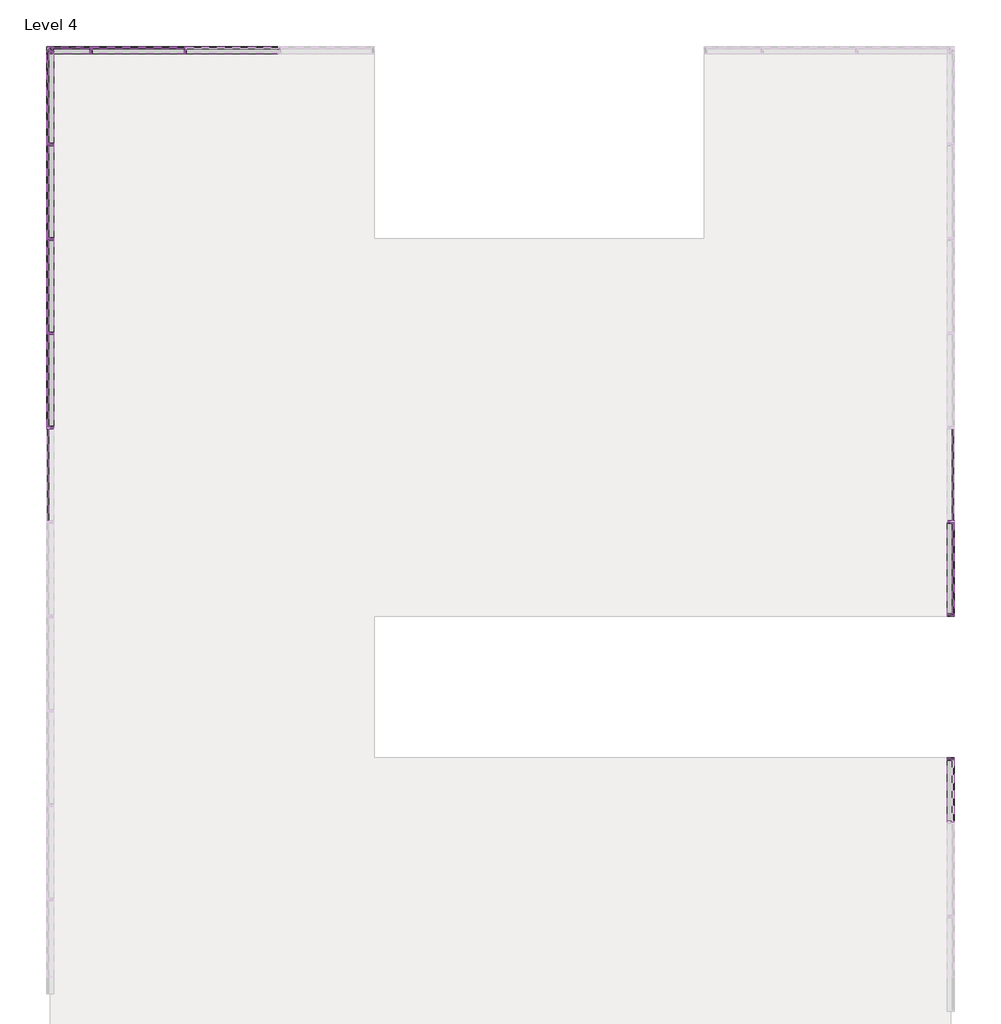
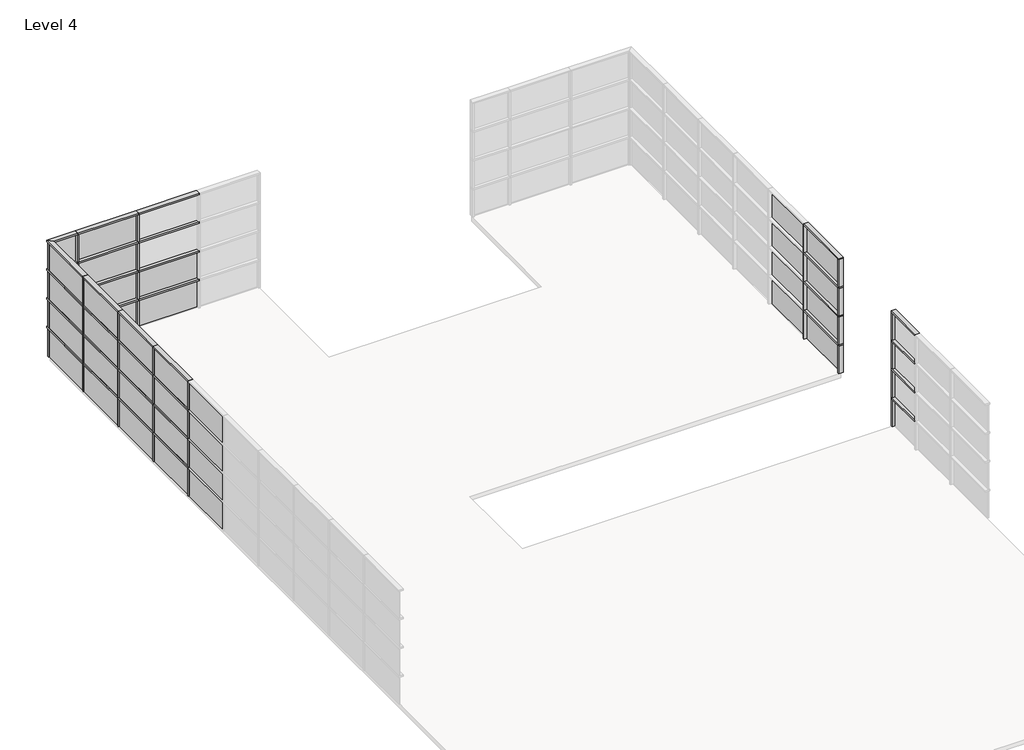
# One storey, part 4 of 5: 80 members, 38 plates.
"""IFC4 building model written with IfcOpenShell, lengths in millimetres."""

import ifcopenshell
import ifcopenshell.guid

model = None  # the IFC model being written
_history = None  # IfcOwnerHistory: only IFC2X3 demands one
_inside = {}  # id of a spatial element -> (the spatial element, [elements in it])
_under = {}  # id of a project, library or spatial element -> (it, [spatial elements below it])
_declared = {}  # id of a project -> (the project, [libraries it declares])
_typed = {}  # id of a type object -> (the type object, [elements of that type])
_made_of = {}  # id of a material, layer set ... -> (it, [elements and type objects made of it])


def new_model(schema):
    """Start an empty IFC model of exactly this schema.

    Asked for "IFC4X3", IfcOpenShell would pick the latest addendum, in which some entities
    have other attributes; the version numbers below select the first issue.
    IFC2X3 requires an IfcOwnerHistory on every rooted entity: one is made here for all.
    """
    global model, _history
    if schema == "IFC4X3":
        model = ifcopenshell.file(schema_version=(4, 3, 0, 0))
    else:
        model = ifcopenshell.file(schema=schema)
    _inside.clear()
    _under.clear()
    _declared.clear()
    _typed.clear()
    _made_of.clear()
    _history = None
    if model.schema == "IFC2X3":
        org = make("IfcOrganization", Name="unknown")
        user = make(
            "IfcPersonAndOrganization",
            ThePerson=make("IfcPerson", FamilyName="unknown"),
            TheOrganization=org,
        )
        app = make(
            "IfcApplication",
            ApplicationDeveloper=org,
            Version="unknown",
            ApplicationFullName="unknown",
            ApplicationIdentifier="unknown",
        )
        _history = make(
            "IfcOwnerHistory",
            OwningUser=user,
            OwningApplication=app,
            ChangeAction="ADDED",
            CreationDate=0,
        )
    return model


def make(cls, **values):
    """One entity of the class cls with the attributes given. An attribute that is None is left unset."""
    return model.create_entity(
        cls, **{name: value for name, value in values.items() if value is not None}
    )


def rooted(cls, **values):
    """An entity with a GlobalId (a new one), such as an element, a storey or a relation."""
    return make(cls, GlobalId=ifcopenshell.guid.new(), OwnerHistory=_history, **values)


def si_unit(unit_type, name, prefix=None):
    """IfcSIUnit, for example si_unit("LENGTHUNIT", "METRE", prefix="MILLI")."""
    return make("IfcSIUnit", UnitType=unit_type, Prefix=prefix, Name=name)


def assignment(units):
    """IfcUnitAssignment: the units of a project."""
    return None if units is None else make("IfcUnitAssignment", Units=units)


def point(xyz):
    """IfcCartesianPoint."""
    return None if xyz is None else make("IfcCartesianPoint", Coordinates=xyz)


def direction(xyz):
    """IfcDirection."""
    return None if xyz is None else make("IfcDirection", DirectionRatios=xyz)


def frame(location, z_axis=None, x_axis=None):
    """IfcAxis2Placement3D, a coordinate frame: its origin and axes. An axis left out is left unset."""
    return make(
        "IfcAxis2Placement3D",
        Location=point(location),
        Axis=direction(z_axis),
        RefDirection=direction(x_axis),
    )


def origin():
    """The frame at (0, 0, 0) with its axes left unset."""
    return frame((0.0, 0.0, 0.0))


def origin_with_axes():
    """The frame at (0, 0, 0) with the z axis (0, 0, 1) and the x axis (1, 0, 0) written out."""
    return frame((0.0, 0.0, 0.0), z_axis=(0.0, 0.0, 1.0), x_axis=(1.0, 0.0, 0.0))


def place(relative_to, where):
    """IfcLocalPlacement: puts the frame where relative to a parent placement (None: the world)."""
    return make(
        "IfcLocalPlacement", PlacementRelTo=relative_to, RelativePlacement=where
    )


def context(
    kind, dimensions, precision=None, world=None, true_north=None, identifier=None
):
    """IfcGeometricRepresentationContext, for example the 3D "Model" context."""
    return make(
        "IfcGeometricRepresentationContext",
        ContextIdentifier=identifier,
        ContextType=kind,
        CoordinateSpaceDimension=dimensions,
        Precision=precision,
        WorldCoordinateSystem=world,
        TrueNorth=true_north,
    )


def project(units=None, contexts=None):
    """IfcProject with its units and contexts."""
    return rooted(
        "IfcProject",
        Name="project",
        RepresentationContexts=contexts,
        UnitsInContext=assignment(units),
    )


def spatial(cls, under=None, at=None, **own):
    """A site, building, storey or space (cls), placed at a placement, below another one or the project."""
    s = rooted(cls, ObjectPlacement=at, **own)
    if under is not None:
        _under.setdefault(under.id(), (under, []))[1].append(s)
    return s


def polyline(points):
    """IfcPolyline through the points."""
    return make("IfcPolyline", Points=[point(p) for p in points])


def outline(outer, holes=None, kind="AREA"):
    """IfcArbitraryClosedProfileDef: a profile drawn as a closed curve; with holes, ...WithVoids."""
    if holes is None:
        return make("IfcArbitraryClosedProfileDef", ProfileType=kind, OuterCurve=outer)
    return make(
        "IfcArbitraryProfileDefWithVoids",
        ProfileType=kind,
        OuterCurve=outer,
        InnerCurves=holes,
    )


def extrude(swept, where, along, depth):
    """IfcExtrudedAreaSolid: the profile swept, set in the frame where, extruded along a direction by depth."""
    return make(
        "IfcExtrudedAreaSolid",
        SweptArea=swept,
        Position=where,
        ExtrudedDirection=direction(along),
        Depth=depth,
    )


def shape(context_of_items, identifier, shape_type, items):
    """IfcShapeRepresentation: the items that make up one representation, for example the "Body"."""
    return make(
        "IfcShapeRepresentation",
        ContextOfItems=context_of_items,
        RepresentationIdentifier=identifier,
        RepresentationType=shape_type,
        Items=items,
    )


def source(mapping_origin, context_of_items, identifier, shape_type, items):
    """IfcRepresentationMap: a shape defined once, which mapped items show again and again."""
    return make(
        "IfcRepresentationMap",
        MappingOrigin=mapping_origin,
        MappedRepresentation=shape(context_of_items, identifier, shape_type, items),
    )


def transform(
    local_origin,
    x_axis=None,
    y_axis=None,
    z_axis=None,
    scale=None,
    scale2=None,
    scale3=None,
    uniform=True,
):
    """IfcCartesianTransformationOperator3D, or its non-uniform kind. x_axis, y_axis, z_axis: its Axis1, 2, 3."""
    if uniform:
        return make(
            "IfcCartesianTransformationOperator3D",
            Axis1=direction(x_axis),
            Axis2=direction(y_axis),
            LocalOrigin=point(local_origin),
            Scale=scale,
            Axis3=direction(z_axis),
        )
    return make(
        "IfcCartesianTransformationOperator3DnonUniform",
        Axis1=direction(x_axis),
        Axis2=direction(y_axis),
        LocalOrigin=point(local_origin),
        Scale=scale,
        Axis3=direction(z_axis),
        Scale2=scale2,
        Scale3=scale3,
    )


def mapped(mapping_source, mapping_target):
    """IfcMappedItem: shows the shape of a source again, moved by a transform."""
    return make(
        "IfcMappedItem", MappingSource=mapping_source, MappingTarget=mapping_target
    )


def made_of(thing, what):
    """Note that an element or type object is made of a material, layer set ...; save() writes the relation."""
    if what is not None:
        _made_of.setdefault(what.id(), (what, []))[1].append(thing)
    return thing


def element(
    cls,
    number,
    at=None,
    inside=None,
    cuts=None,
    type_object=None,
    material=None,
    context=None,
    identifier="Body",
    shape_type=None,
    held_by="IfcProductDefinitionShape",
    body=None,
    shapes=None,
    **own,
):
    """One element of the class cls, such as IfcWall. Its Tag is "e" and its number.

    at: its placement. inside: the storey or other place that contains it. cuts: it is an
    opening in that element (IfcRelVoidsElement). A single representation is given by context,
    identifier, shape_type and body (its items); several are given by shapes. held_by: the class
    of the entity that holds the representations. save() writes the other relations.
    """
    e = rooted(cls, Tag="e%d" % number, ObjectPlacement=at, **own)
    if body is not None:
        shapes = [shape(context, identifier, shape_type, body)]
    if shapes is not None:
        e.Representation = make(held_by, Representations=shapes)
    if inside is not None:
        _inside.setdefault(inside.id(), (inside, []))[1].append(e)
    if cuts is not None:
        rooted(
            "IfcRelVoidsElement", RelatingBuildingElement=cuts, RelatedOpeningElement=e
        )
    if type_object is not None:
        _typed.setdefault(type_object.id(), (type_object, []))[1].append(e)
    return made_of(e, material)


def aggregate(whole, parts):
    """IfcRelAggregates: a whole, such as a stair, and the parts it consists of."""
    return rooted("IfcRelAggregates", RelatingObject=whole, RelatedObjects=parts)


def save(model, path):
    """Write the relations noted so far, then the file.

    IfcRelAggregates (storeys below a building ...), IfcRelContainedInSpatialStructure (elements
    in a storey), IfcRelDefinesByType, IfcRelAssociatesMaterial and IfcRelDeclares: one each for
    every whole, place, type object, material and project.
    """
    for whole, parts in _under.values():
        aggregate(whole, parts)
    for where, things in _inside.values():
        rooted(
            "IfcRelContainedInSpatialStructure",
            RelatedElements=things,
            RelatingStructure=where,
        )
    for kind, things in _typed.values():
        rooted("IfcRelDefinesByType", RelatedObjects=things, RelatingType=kind)
    for what, things in _made_of.values():
        rooted("IfcRelAssociatesMaterial", RelatedObjects=things, RelatingMaterial=what)
    for by, libraries in _declared.values():
        rooted("IfcRelDeclares", RelatingContext=by, RelatedDefinitions=libraries)
    model.write(path)


def rectangular_mullion_50_x_150mm_a053b0ca(model_context):
    return source(origin(), model_context, "Body", "SweptSolid", [
        extrude(outline(polyline([(25.0, 75.0), (25.0, -75.0), (-25.0, -75.0), (-25.0, 75.0), (25.0, 75.0)])), frame((0.0, 0.0, -950.0), z_axis=(0.0, 0.0, 1.0), x_axis=(1.0, 0.0, 0.0)), (0.0, 0.0, 1.0), 950.0),
    ])


def rectangular_mullion_50_x_150mm_3a148f0f(model_context):
    return source(origin(), model_context, "Body", "SweptSolid", [
        extrude(outline(polyline([(25.0, 75.0), (25.0, -75.0), (-25.0, -75.0), (-25.0, 75.0), (25.0, 75.0)])), frame((0.0, 0.0, -2000.0), z_axis=(0.0, 0.0, 1.0), x_axis=(1.0, 0.0, 0.0)), (0.0, 0.0, 1.0), 2000.0),
    ])


def rectangular_mullion_50_x_150mm_12a430f9(model_context):
    return source(origin(), model_context, "Body", "SweptSolid", [
        extrude(outline(polyline([(0.0, 75.0), (0.0, -75.0), (-50.0, -75.0), (-50.0, 75.0), (0.0, 75.0)])), frame((0.0, 0.0, -950.0), z_axis=(0.0, 0.0, 1.0), x_axis=(1.0, 0.0, 0.0)), (0.0, 0.0, 1.0), 950.0),
    ])


def rectangular_mullion_50_x_150mm_c4a1d10e(model_context):
    return source(origin(), model_context, "Body", "SweptSolid", [
        extrude(outline(polyline([(-75.0, -75.0), (75.0, 75.0), (75.0, -865.592625), (-75.0, -865.592625), (-75.0, -75.0)])), frame((-25.0, 0.0, 0.0), z_axis=(1.0, 0.0, 0.0), x_axis=(0.0, 1.0, 0.0)), (0.0, 0.0, 1.0), 50.0),
    ])


def rectangular_mullion_50_x_150mm_947845bb(model_context):
    return source(origin(), model_context, "Body", "SweptSolid", [
        extrude(outline(polyline([(-75.0, 0.0), (75.0, 0.0), (75.0, -2075.0), (-75.0, -1925.0), (-75.0, 0.0)])), frame((-25.0, 0.0, 0.0), z_axis=(1.0, 0.0, 0.0), x_axis=(0.0, 1.0, 0.0)), (0.0, 0.0, 1.0), 50.0),
    ])


def rectangular_mullion_50_x_150mm_5fc4eb71(model_context):
    return source(origin(), model_context, "Body", "SweptSolid", [
        extrude(outline(polyline([(25.0, 75.0), (25.0, -75.0), (-25.0, -75.0), (-25.0, 75.0), (25.0, 75.0)])), frame((0.0, 0.0, -1364.7256931), z_axis=(0.0, 0.0, 1.0), x_axis=(1.0, 0.0, 0.0)), (0.0, 0.0, 1.0), 1364.7256931),
    ])


def system_panel_glazed_751a585c(model_context):
    return source(origin(), model_context, "Body", "SweptSolid", [
        extrude(outline(polyline([(475.0, 24.5), (-475.0, 24.5), (-475.0, 49.5), (475.0, 49.5), (475.0, 24.5)])), origin_with_axes(), (0.0, 0.0, 1.0), 1925.0),
    ])


def system_panel_glazed_08de6f5f(model_context):
    return source(origin(), model_context, "Body", "SweptSolid", [
        extrude(outline(polyline([(475.0, 24.5), (-475.0, 24.5), (-475.0, 49.5), (475.0, 49.5), (475.0, 24.5)])), origin_with_axes(), (0.0, 0.0, 1.0), 1950.0),
    ])


def system_panel_glazed_3868a10e(model_context):
    return source(origin(), model_context, "Body", "SweptSolid", [
        extrude(outline(polyline([(475.0, 24.5), (-475.0, 24.5), (-475.0, 49.5), (475.0, 49.5), (475.0, 24.5)])), origin_with_axes(), (0.0, 0.0, 1.0), 790.592625),
    ])


model = new_model("IFC4")

# Units and contexts
model_context = context("Model", 3, world=origin())
ifc_project = project(units=[si_unit("LENGTHUNIT", "METRE", prefix="MILLI")], contexts=[model_context])

# Site, building, storey
site = spatial("IfcSite", under=ifc_project)
building = spatial("IfcBuilding", under=site)
storey = spatial("IfcBuildingStorey", under=building, Name="Level 4", Elevation=12000.0)

# Members
placement = place(None, origin())
rectangular_mullion_50_x_150mm_shape = rectangular_mullion_50_x_150mm_a053b0ca(model_context)
element("IfcMember", 1, ObjectType="Rectangular Mullion : 50 x 150mm", at=placement, inside=storey, context=model_context, shape_type="MappedRepresentation", body=[
    mapped(rectangular_mullion_50_x_150mm_shape, transform((-5587.173406, 6375.9839566, 12025.0), x_axis=(0.0, -1.0, 0.0), y_axis=(-1.0, 0.0, 0.0), z_axis=(0.0, 0.0, -1.0))),
])
element("IfcMember", 2, ObjectType="Rectangular Mullion : 50 x 150mm", at=placement, inside=storey, context=model_context, shape_type="MappedRepresentation", body=[
    mapped(rectangular_mullion_50_x_150mm_shape, transform((-5587.173406, 6375.9839566, 13025.0), x_axis=(0.0, -1.0, 0.0), y_axis=(-1.0, 0.0, 0.0), z_axis=(0.0, 0.0, -1.0))),
])
element("IfcMember", 3, ObjectType="Rectangular Mullion : 50 x 150mm", at=placement, inside=storey, context=model_context, shape_type="MappedRepresentation", body=[
    mapped(rectangular_mullion_50_x_150mm_shape, transform((-5587.173406, 6375.9839566, 14025.0), x_axis=(0.0, -1.0, 0.0), y_axis=(-1.0, 0.0, 0.0), z_axis=(0.0, 0.0, -1.0))),
])
element("IfcMember", 4, ObjectType="Rectangular Mullion : 50 x 150mm", at=placement, inside=storey, context=model_context, shape_type="MappedRepresentation", body=[
    mapped(rectangular_mullion_50_x_150mm_shape, transform((-5587.173406, 6375.9839566, 15025.0), x_axis=(0.0, -1.0, 0.0), y_axis=(-1.0, 0.0, 0.0), z_axis=(0.0, 0.0, -1.0))),
])
element("IfcMember", 5, ObjectType="Rectangular Mullion : 50 x 150mm", at=placement, inside=storey, context=model_context, shape_type="MappedRepresentation", body=[
    mapped(rectangular_mullion_50_x_150mm_shape, transform((-5587.173406, 4375.9839566, 12025.0), x_axis=(0.0, -1.0, 0.0), y_axis=(-1.0, 0.0, 0.0), z_axis=(0.0, 0.0, -1.0))),
])
element("IfcMember", 6, ObjectType="Rectangular Mullion : 50 x 150mm", at=placement, inside=storey, context=model_context, shape_type="MappedRepresentation", body=[
    mapped(rectangular_mullion_50_x_150mm_shape, transform((-5587.173406, 4375.9839566, 13025.0), x_axis=(0.0, -1.0, 0.0), y_axis=(-1.0, 0.0, 0.0), z_axis=(0.0, 0.0, -1.0))),
])
element("IfcMember", 7, ObjectType="Rectangular Mullion : 50 x 150mm", at=placement, inside=storey, context=model_context, shape_type="MappedRepresentation", body=[
    mapped(rectangular_mullion_50_x_150mm_shape, transform((-5587.173406, 4375.9839566, 14025.0), x_axis=(0.0, -1.0, 0.0), y_axis=(-1.0, 0.0, 0.0), z_axis=(0.0, 0.0, -1.0))),
])
element("IfcMember", 8, ObjectType="Rectangular Mullion : 50 x 150mm", at=placement, inside=storey, context=model_context, shape_type="MappedRepresentation", body=[
    mapped(rectangular_mullion_50_x_150mm_shape, transform((-5587.173406, 4375.9839566, 15025.0), x_axis=(0.0, -1.0, 0.0), y_axis=(-1.0, 0.0, 0.0), z_axis=(0.0, 0.0, -1.0))),
])
element("IfcMember", 9, ObjectType="Rectangular Mullion : 50 x 150mm", at=placement, inside=storey, context=model_context, shape_type="MappedRepresentation", body=[
    mapped(rectangular_mullion_50_x_150mm_shape, transform((-5587.173406, 2375.9839566, 12025.0), x_axis=(0.0, -1.0, 0.0), y_axis=(-1.0, 0.0, 0.0), z_axis=(0.0, 0.0, -1.0))),
])
element("IfcMember", 10, ObjectType="Rectangular Mullion : 50 x 150mm", at=placement, inside=storey, context=model_context, shape_type="MappedRepresentation", body=[
    mapped(rectangular_mullion_50_x_150mm_shape, transform((-5587.173406, 2375.9839566, 13025.0), x_axis=(0.0, -1.0, 0.0), y_axis=(-1.0, 0.0, 0.0), z_axis=(0.0, 0.0, -1.0))),
])
element("IfcMember", 11, ObjectType="Rectangular Mullion : 50 x 150mm", at=placement, inside=storey, context=model_context, shape_type="MappedRepresentation", body=[
    mapped(rectangular_mullion_50_x_150mm_shape, transform((-5587.173406, 2375.9839566, 14025.0), x_axis=(0.0, -1.0, 0.0), y_axis=(-1.0, 0.0, 0.0), z_axis=(0.0, 0.0, -1.0))),
])
element("IfcMember", 12, ObjectType="Rectangular Mullion : 50 x 150mm", at=placement, inside=storey, context=model_context, shape_type="MappedRepresentation", body=[
    mapped(rectangular_mullion_50_x_150mm_shape, transform((-5587.173406, 2375.9839566, 15025.0), x_axis=(0.0, -1.0, 0.0), y_axis=(-1.0, 0.0, 0.0), z_axis=(0.0, 0.0, -1.0))),
])
element("IfcMember", 13, ObjectType="Rectangular Mullion : 50 x 150mm", at=placement, inside=storey, context=model_context, shape_type="MappedRepresentation", body=[
    mapped(rectangular_mullion_50_x_150mm_shape, transform((-5587.173406, 375.9839566, 12025.0), x_axis=(0.0, -1.0, 0.0), y_axis=(-1.0, 0.0, 0.0), z_axis=(0.0, 0.0, -1.0))),
])
element("IfcMember", 14, ObjectType="Rectangular Mullion : 50 x 150mm", at=placement, inside=storey, context=model_context, shape_type="MappedRepresentation", body=[
    mapped(rectangular_mullion_50_x_150mm_shape, transform((-5587.173406, 375.9839566, 13025.0), x_axis=(0.0, -1.0, 0.0), y_axis=(-1.0, 0.0, 0.0), z_axis=(0.0, 0.0, -1.0))),
])
element("IfcMember", 15, ObjectType="Rectangular Mullion : 50 x 150mm", at=placement, inside=storey, context=model_context, shape_type="MappedRepresentation", body=[
    mapped(rectangular_mullion_50_x_150mm_shape, transform((-5587.173406, 375.9839566, 14025.0), x_axis=(0.0, -1.0, 0.0), y_axis=(-1.0, 0.0, 0.0), z_axis=(0.0, 0.0, -1.0))),
])
element("IfcMember", 16, ObjectType="Rectangular Mullion : 50 x 150mm", at=placement, inside=storey, context=model_context, shape_type="MappedRepresentation", body=[
    mapped(rectangular_mullion_50_x_150mm_shape, transform((-5587.173406, 375.9839566, 15025.0), x_axis=(0.0, -1.0, 0.0), y_axis=(-1.0, 0.0, 0.0), z_axis=(0.0, 0.0, -1.0))),
])
element("IfcMember", 17, ObjectType="Rectangular Mullion : 50 x 150mm", at=placement, inside=storey, context=model_context, shape_type="MappedRepresentation", body=[
    mapped(rectangular_mullion_50_x_150mm_shape, transform((-4721.580781, 8375.9839566, 12025.0), x_axis=(-1.0, 0.0, 0.0), y_axis=(0.0, 1.0, 0.0), z_axis=(0.0, 0.0, -1.0))),
])
element("IfcMember", 18, ObjectType="Rectangular Mullion : 50 x 150mm", at=placement, inside=storey, context=model_context, shape_type="MappedRepresentation", body=[
    mapped(rectangular_mullion_50_x_150mm_shape, transform((-4721.580781, 8375.9839566, 13025.0), x_axis=(-1.0, 0.0, 0.0), y_axis=(0.0, 1.0, 0.0), z_axis=(0.0, 0.0, -0.9999999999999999))),
])
element("IfcMember", 19, ObjectType="Rectangular Mullion : 50 x 150mm", at=placement, inside=storey, context=model_context, shape_type="MappedRepresentation", body=[
    mapped(rectangular_mullion_50_x_150mm_shape, transform((-4721.580781, 8375.9839566, 14025.0), x_axis=(-1.0, 0.0, 0.0), y_axis=(0.0, 1.0, 0.0), z_axis=(0.0, 0.0, -1.0))),
])
element("IfcMember", 20, ObjectType="Rectangular Mullion : 50 x 150mm", at=placement, inside=storey, context=model_context, shape_type="MappedRepresentation", body=[
    mapped(rectangular_mullion_50_x_150mm_shape, transform((-4721.580781, 8375.9839566, 15025.0), x_axis=(-1.0, 0.0, 0.0), y_axis=(0.0, 1.0, 0.0), z_axis=(0.0, 0.0, -1.0))),
])
element("IfcMember", 21, ObjectType="Rectangular Mullion : 50 x 150mm", at=placement, inside=storey, context=model_context, shape_type="MappedRepresentation", body=[
    mapped(rectangular_mullion_50_x_150mm_shape, transform((-2721.580781, 8375.9839566, 12025.0), x_axis=(-1.0, 0.0, 0.0), y_axis=(0.0, 1.0, 0.0), z_axis=(0.0, 0.0, -1.0))),
])
element("IfcMember", 22, ObjectType="Rectangular Mullion : 50 x 150mm", at=placement, inside=storey, context=model_context, shape_type="MappedRepresentation", body=[
    mapped(rectangular_mullion_50_x_150mm_shape, transform((-2721.580781, 8375.9839566, 13025.0), x_axis=(-1.0, 0.0, 0.0), y_axis=(0.0, 1.0, 0.0), z_axis=(0.0, 0.0, -1.0))),
])
element("IfcMember", 23, ObjectType="Rectangular Mullion : 50 x 150mm", at=placement, inside=storey, context=model_context, shape_type="MappedRepresentation", body=[
    mapped(rectangular_mullion_50_x_150mm_shape, transform((-2721.580781, 8375.9839566, 14025.0), x_axis=(-1.0, 0.0, 0.0), y_axis=(0.0, 1.0, 0.0), z_axis=(0.0, 0.0, -1.0))),
])
element("IfcMember", 24, ObjectType="Rectangular Mullion : 50 x 150mm", at=placement, inside=storey, context=model_context, shape_type="MappedRepresentation", body=[
    mapped(rectangular_mullion_50_x_150mm_shape, transform((-2721.580781, 8375.9839566, 15025.0), x_axis=(-1.0, 0.0, 0.0), y_axis=(0.0, 1.0, 0.0), z_axis=(0.0, 0.0, -1.0))),
])
element("IfcMember", 25, ObjectType="Rectangular Mullion : 50 x 150mm", at=placement, inside=storey, context=model_context, shape_type="MappedRepresentation", body=[
    mapped(rectangular_mullion_50_x_150mm_shape, transform((13503.2660975, -1624.0160434, 12025.0), x_axis=(0.0, 1.0, 0.0), y_axis=(1.0, 0.0, 0.0), z_axis=(0.0, 0.0, -1.0))),
])
element("IfcMember", 26, ObjectType="Rectangular Mullion : 50 x 150mm", at=placement, inside=storey, context=model_context, shape_type="MappedRepresentation", body=[
    mapped(rectangular_mullion_50_x_150mm_shape, transform((13503.2660975, -1624.0160434, 13025.0), x_axis=(0.0, 1.0, 0.0), y_axis=(1.0, 0.0, 0.0), z_axis=(0.0, 0.0, -1.0))),
])
element("IfcMember", 27, ObjectType="Rectangular Mullion : 50 x 150mm", at=placement, inside=storey, context=model_context, shape_type="MappedRepresentation", body=[
    mapped(rectangular_mullion_50_x_150mm_shape, transform((13503.2660975, -1624.0160434, 14025.0), x_axis=(0.0, 1.0, 0.0), y_axis=(1.0, 0.0, 0.0), z_axis=(0.0, 0.0, -1.0))),
])
element("IfcMember", 28, ObjectType="Rectangular Mullion : 50 x 150mm", at=placement, inside=storey, context=model_context, shape_type="MappedRepresentation", body=[
    mapped(rectangular_mullion_50_x_150mm_shape, transform((13503.2660975, -1624.0160434, 15025.0), x_axis=(0.0, 1.0, 0.0), y_axis=(1.0, 0.0, 0.0), z_axis=(0.0, 0.0, -1.0))),
])
rectangular_mullion_50_x_150mm_2_shape = rectangular_mullion_50_x_150mm_3a148f0f(model_context)
element("IfcMember", 29, ObjectType="Rectangular Mullion : 50 x 150mm", at=placement, inside=storey, context=model_context, shape_type="MappedRepresentation", body=[
    mapped(rectangular_mullion_50_x_150mm_2_shape, transform((13503.2660975, -1624.0160434, 13000.0), x_axis=(0.0, 0.0, 1.0), y_axis=(1.0, 0.0, 0.0), z_axis=(0.0, 1.0, 0.0))),
])
element("IfcMember", 30, ObjectType="Rectangular Mullion : 50 x 150mm", at=placement, inside=storey, context=model_context, shape_type="MappedRepresentation", body=[
    mapped(rectangular_mullion_50_x_150mm_2_shape, transform((13503.2660975, -1624.0160434, 14000.0), x_axis=(0.0, 0.0, 1.0), y_axis=(1.0, 0.0, 0.0), z_axis=(0.0, 1.0, 0.0))),
])
element("IfcMember", 31, ObjectType="Rectangular Mullion : 50 x 150mm", at=placement, inside=storey, context=model_context, shape_type="MappedRepresentation", body=[
    mapped(rectangular_mullion_50_x_150mm_2_shape, transform((13503.2660975, -1624.0160434, 15000.0), x_axis=(0.0, 0.0, 1.0), y_axis=(1.0, 0.0, 0.0), z_axis=(0.0, 1.0, 0.0))),
])
element("IfcMember", 32, ObjectType="Rectangular Mullion : 50 x 150mm", at=placement, inside=storey, context=model_context, shape_type="MappedRepresentation", body=[
    mapped(rectangular_mullion_50_x_150mm_2_shape, transform((13503.2660975, -1624.0160434, 16000.0), x_axis=(0.0, 0.0, 1.0), y_axis=(1.0, 0.0, 0.0), z_axis=(0.0, 0.9999999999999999, 0.0))),
])
element("IfcMember", 33, ObjectType="Rectangular Mullion : 50 x 150mm", at=placement, inside=storey, context=model_context, shape_type="MappedRepresentation", body=[
    mapped(rectangular_mullion_50_x_150mm_2_shape, transform((-5587.173406, 4375.9839566, 13000.0), x_axis=(0.0, 0.0, 1.0), y_axis=(-1.0, 0.0, 0.0), z_axis=(0.0, -1.0, 0.0))),
])
element("IfcMember", 34, ObjectType="Rectangular Mullion : 50 x 150mm", at=placement, inside=storey, context=model_context, shape_type="MappedRepresentation", body=[
    mapped(rectangular_mullion_50_x_150mm_2_shape, transform((-5587.173406, 2375.9839566, 13000.0), x_axis=(0.0, 0.0, 1.0), y_axis=(-1.0, 0.0, 0.0), z_axis=(0.0, -1.0, 0.0))),
])
element("IfcMember", 35, ObjectType="Rectangular Mullion : 50 x 150mm", at=placement, inside=storey, context=model_context, shape_type="MappedRepresentation", body=[
    mapped(rectangular_mullion_50_x_150mm_2_shape, transform((-5587.173406, 375.9839566, 13000.0), x_axis=(0.0, 0.0, 1.0), y_axis=(-1.0, 0.0, 0.0), z_axis=(0.0, -1.0, 0.0))),
])
element("IfcMember", 36, ObjectType="Rectangular Mullion : 50 x 150mm", at=placement, inside=storey, context=model_context, shape_type="MappedRepresentation", body=[
    mapped(rectangular_mullion_50_x_150mm_2_shape, transform((-5587.173406, 4375.9839566, 14000.0), x_axis=(0.0, 0.0, 1.0), y_axis=(-1.0, 0.0, 0.0), z_axis=(0.0, -1.0, 0.0))),
])
element("IfcMember", 37, ObjectType="Rectangular Mullion : 50 x 150mm", at=placement, inside=storey, context=model_context, shape_type="MappedRepresentation", body=[
    mapped(rectangular_mullion_50_x_150mm_2_shape, transform((-5587.173406, 2375.9839566, 14000.0), x_axis=(0.0, 0.0, 1.0), y_axis=(-1.0, 0.0, 0.0), z_axis=(0.0, -1.0, 0.0))),
])
element("IfcMember", 38, ObjectType="Rectangular Mullion : 50 x 150mm", at=placement, inside=storey, context=model_context, shape_type="MappedRepresentation", body=[
    mapped(rectangular_mullion_50_x_150mm_2_shape, transform((-5587.173406, 375.9839566, 14000.0), x_axis=(0.0, 0.0, 1.0), y_axis=(-1.0, 0.0, 0.0), z_axis=(0.0, -1.0, 0.0))),
])
element("IfcMember", 39, ObjectType="Rectangular Mullion : 50 x 150mm", at=placement, inside=storey, context=model_context, shape_type="MappedRepresentation", body=[
    mapped(rectangular_mullion_50_x_150mm_2_shape, transform((-5587.173406, 4375.9839566, 15000.0), x_axis=(0.0, 0.0, 1.0), y_axis=(-1.0, 0.0, 0.0), z_axis=(0.0, -1.0, 0.0))),
])
element("IfcMember", 40, ObjectType="Rectangular Mullion : 50 x 150mm", at=placement, inside=storey, context=model_context, shape_type="MappedRepresentation", body=[
    mapped(rectangular_mullion_50_x_150mm_2_shape, transform((-5587.173406, 2375.9839566, 15000.0), x_axis=(0.0, 0.0, 1.0), y_axis=(-1.0, 0.0, 0.0), z_axis=(0.0, -1.0, 0.0))),
])
element("IfcMember", 41, ObjectType="Rectangular Mullion : 50 x 150mm", at=placement, inside=storey, context=model_context, shape_type="MappedRepresentation", body=[
    mapped(rectangular_mullion_50_x_150mm_2_shape, transform((-5587.173406, 375.9839566, 15000.0), x_axis=(0.0, 0.0, 1.0), y_axis=(-1.0, 0.0, 0.0), z_axis=(0.0, -1.0, 0.0))),
])
element("IfcMember", 42, ObjectType="Rectangular Mullion : 50 x 150mm", at=placement, inside=storey, context=model_context, shape_type="MappedRepresentation", body=[
    mapped(rectangular_mullion_50_x_150mm_2_shape, transform((-5587.173406, 4375.9839566, 16000.0), x_axis=(0.0, 0.0, 1.0), y_axis=(-1.0, 0.0, 0.0), z_axis=(0.0, -1.0, 0.0))),
])
element("IfcMember", 43, ObjectType="Rectangular Mullion : 50 x 150mm", at=placement, inside=storey, context=model_context, shape_type="MappedRepresentation", body=[
    mapped(rectangular_mullion_50_x_150mm_2_shape, transform((-5587.173406, 2375.9839566, 16000.0), x_axis=(0.0, 0.0, 1.0), y_axis=(-1.0, 0.0, 0.0), z_axis=(0.0, -1.0, 0.0))),
])
element("IfcMember", 44, ObjectType="Rectangular Mullion : 50 x 150mm", at=placement, inside=storey, context=model_context, shape_type="MappedRepresentation", body=[
    mapped(rectangular_mullion_50_x_150mm_2_shape, transform((-5587.173406, 375.9839566, 16000.0), x_axis=(0.0, 0.0, 1.0), y_axis=(-1.0, 0.0, 0.0), z_axis=(0.0, -1.0, 0.0))),
])
element("IfcMember", 45, ObjectType="Rectangular Mullion : 50 x 150mm", at=placement, inside=storey, context=model_context, shape_type="MappedRepresentation", body=[
    mapped(rectangular_mullion_50_x_150mm_2_shape, transform((-2721.580781, 8375.9839566, 13000.0), x_axis=(0.0, 0.0, 1.0), y_axis=(0.0, 1.0, 0.0), z_axis=(-1.0, 0.0, 0.0))),
])
element("IfcMember", 46, ObjectType="Rectangular Mullion : 50 x 150mm", at=placement, inside=storey, context=model_context, shape_type="MappedRepresentation", body=[
    mapped(rectangular_mullion_50_x_150mm_2_shape, transform((-4721.580781, 8375.9839566, 13000.0), x_axis=(0.0, 0.0, 1.0), y_axis=(0.0, 1.0, 0.0), z_axis=(-1.0, 0.0, 0.0))),
])
element("IfcMember", 47, ObjectType="Rectangular Mullion : 50 x 150mm", at=placement, inside=storey, context=model_context, shape_type="MappedRepresentation", body=[
    mapped(rectangular_mullion_50_x_150mm_2_shape, transform((-2721.580781, 8375.9839566, 14000.0), x_axis=(0.0, 0.0, 1.0), y_axis=(0.0, 1.0, 0.0), z_axis=(-1.0, 0.0, 0.0))),
])
element("IfcMember", 48, ObjectType="Rectangular Mullion : 50 x 150mm", at=placement, inside=storey, context=model_context, shape_type="MappedRepresentation", body=[
    mapped(rectangular_mullion_50_x_150mm_2_shape, transform((-4721.580781, 8375.9839566, 14000.0), x_axis=(0.0, 0.0, 1.0), y_axis=(0.0, 1.0, 0.0), z_axis=(-1.0, 0.0, 0.0))),
])
element("IfcMember", 49, ObjectType="Rectangular Mullion : 50 x 150mm", at=placement, inside=storey, context=model_context, shape_type="MappedRepresentation", body=[
    mapped(rectangular_mullion_50_x_150mm_2_shape, transform((-2721.580781, 8375.9839566, 15000.0), x_axis=(0.0, 0.0, 1.0), y_axis=(0.0, 1.0, 0.0), z_axis=(-1.0, 0.0, 0.0))),
])
element("IfcMember", 50, ObjectType="Rectangular Mullion : 50 x 150mm", at=placement, inside=storey, context=model_context, shape_type="MappedRepresentation", body=[
    mapped(rectangular_mullion_50_x_150mm_2_shape, transform((-4721.580781, 8375.9839566, 15000.0), x_axis=(0.0, 0.0, 1.0), y_axis=(0.0, 1.0, 0.0), z_axis=(-1.0, 0.0, 0.0))),
])
element("IfcMember", 51, ObjectType="Rectangular Mullion : 50 x 150mm", at=placement, inside=storey, context=model_context, shape_type="MappedRepresentation", body=[
    mapped(rectangular_mullion_50_x_150mm_2_shape, transform((-2721.580781, 8375.9839566, 16000.0), x_axis=(0.0, 0.0, 1.0), y_axis=(0.0, 1.0, 0.0), z_axis=(-1.0, 0.0, 0.0))),
])
element("IfcMember", 52, ObjectType="Rectangular Mullion : 50 x 150mm", at=placement, inside=storey, context=model_context, shape_type="MappedRepresentation", body=[
    mapped(rectangular_mullion_50_x_150mm_2_shape, transform((-4721.580781, 8375.9839566, 16000.0), x_axis=(0.0, 0.0, 1.0), y_axis=(0.0, 1.0, 0.0), z_axis=(-1.0, 0.0, 0.0))),
])
rectangular_mullion_50_x_150mm_3_shape = rectangular_mullion_50_x_150mm_12a430f9(model_context)
element("IfcMember", 53, ObjectType="Rectangular Mullion : 50 x 150mm", at=placement, inside=storey, context=model_context, shape_type="MappedRepresentation", body=[
    mapped(rectangular_mullion_50_x_150mm_3_shape, transform((-5587.173406, 8375.9839566, 12975.0), x_axis=(0.0, 1.0, 0.0), y_axis=(-1.0, 0.0, 0.0), z_axis=(0.0, 0.0, 1.0))),
])
element("IfcMember", 54, ObjectType="Rectangular Mullion : 50 x 150mm", at=placement, inside=storey, context=model_context, shape_type="MappedRepresentation", body=[
    mapped(rectangular_mullion_50_x_150mm_3_shape, transform((-5587.173406, 8375.9839566, 13975.0), x_axis=(0.0, 1.0, 0.0), y_axis=(-1.0, 0.0, 0.0), z_axis=(0.0, 0.0, 1.0))),
])
element("IfcMember", 55, ObjectType="Rectangular Mullion : 50 x 150mm", at=placement, inside=storey, context=model_context, shape_type="MappedRepresentation", body=[
    mapped(rectangular_mullion_50_x_150mm_3_shape, transform((-5587.173406, 8375.9839566, 14975.0), x_axis=(0.0, 1.0, 0.0), y_axis=(-1.0, 0.0, 0.0), z_axis=(0.0, 0.0, 1.0))),
])
element("IfcMember", 56, ObjectType="Rectangular Mullion : 50 x 150mm", at=placement, inside=storey, context=model_context, shape_type="MappedRepresentation", body=[
    mapped(rectangular_mullion_50_x_150mm_3_shape, transform((-5587.173406, 8375.9839566, 15975.0), x_axis=(0.0, 1.0, 0.0), y_axis=(-1.0, 0.0, 0.0), z_axis=(0.0, 0.0, 1.0))),
])
element("IfcMember", 57, ObjectType="Rectangular Mullion : 50 x 150mm", at=placement, inside=storey, context=model_context, shape_type="MappedRepresentation", body=[
    mapped(rectangular_mullion_50_x_150mm_3_shape, transform((13503.2660975, -3624.0160434, 12975.0), x_axis=(0.0, -1.0, 0.0), y_axis=(1.0, 0.0, 0.0), z_axis=(0.0, 0.0, 1.0))),
])
element("IfcMember", 58, ObjectType="Rectangular Mullion : 50 x 150mm", at=placement, inside=storey, context=model_context, shape_type="MappedRepresentation", body=[
    mapped(rectangular_mullion_50_x_150mm_3_shape, transform((13503.2660975, -3624.0160434, 13975.0), x_axis=(0.0, -1.0, 0.0), y_axis=(1.0, 0.0, 0.0), z_axis=(0.0, 0.0, 1.0))),
])
element("IfcMember", 59, ObjectType="Rectangular Mullion : 50 x 150mm", at=placement, inside=storey, context=model_context, shape_type="MappedRepresentation", body=[
    mapped(rectangular_mullion_50_x_150mm_3_shape, transform((13503.2660975, -3624.0160434, 14975.0), x_axis=(0.0, -1.0, 0.0), y_axis=(1.0, 0.0, 0.0), z_axis=(0.0, 0.0, 1.0))),
])
element("IfcMember", 60, ObjectType="Rectangular Mullion : 50 x 150mm", at=placement, inside=storey, context=model_context, shape_type="MappedRepresentation", body=[
    mapped(rectangular_mullion_50_x_150mm_3_shape, transform((13503.2660975, -3624.0160434, 15975.0), x_axis=(0.0, -1.0, 0.0), y_axis=(1.0, 0.0, 0.0), z_axis=(0.0, 0.0, 1.0))),
])
element("IfcMember", 61, ObjectType="Rectangular Mullion : 50 x 150mm", at=placement, inside=storey, context=model_context, shape_type="MappedRepresentation", body=[
    mapped(rectangular_mullion_50_x_150mm_3_shape, transform((-5587.173406, 8375.9839566, 12025.0), x_axis=(-1.0, 0.0, 0.0), y_axis=(0.0, 1.0, 0.0), z_axis=(0.0, 0.0, -1.0))),
])
element("IfcMember", 62, ObjectType="Rectangular Mullion : 50 x 150mm", at=placement, inside=storey, context=model_context, shape_type="MappedRepresentation", body=[
    mapped(rectangular_mullion_50_x_150mm_3_shape, transform((-5587.173406, 8375.9839566, 13025.0), x_axis=(-1.0, 0.0, 0.0), y_axis=(0.0, 1.0, 0.0), z_axis=(0.0, 0.0, -1.0))),
])
element("IfcMember", 63, ObjectType="Rectangular Mullion : 50 x 150mm", at=placement, inside=storey, context=model_context, shape_type="MappedRepresentation", body=[
    mapped(rectangular_mullion_50_x_150mm_3_shape, transform((-5587.173406, 8375.9839566, 14025.0), x_axis=(-1.0, 0.0, 0.0), y_axis=(0.0, 1.0, 0.0), z_axis=(0.0, 0.0, -1.0))),
])
element("IfcMember", 64, ObjectType="Rectangular Mullion : 50 x 150mm", at=placement, inside=storey, context=model_context, shape_type="MappedRepresentation", body=[
    mapped(rectangular_mullion_50_x_150mm_3_shape, transform((-5587.173406, 8375.9839566, 15025.0), x_axis=(-1.0, 0.0, 0.0), y_axis=(0.0, 1.0, 0.0), z_axis=(0.0, 0.0, -1.0))),
])
element("IfcMember", 65, ObjectType="Rectangular Mullion : 50 x 150mm", at=placement, inside=storey, context=model_context, shape_type="MappedRepresentation", body=[
    mapped(rectangular_mullion_50_x_150mm_3_shape, transform((13503.2660975, -6624.0160434, 12025.0), x_axis=(0.0, 1.0, 0.0), y_axis=(1.0, 0.0, 0.0), z_axis=(0.0, 0.0, -1.0))),
])
element("IfcMember", 66, ObjectType="Rectangular Mullion : 50 x 150mm", at=placement, inside=storey, context=model_context, shape_type="MappedRepresentation", body=[
    mapped(rectangular_mullion_50_x_150mm_3_shape, transform((13503.2660975, -6624.0160434, 13025.0), x_axis=(0.0, 1.0, 0.0), y_axis=(1.0, 0.0, 0.0), z_axis=(0.0, 0.0, -1.0))),
])
element("IfcMember", 67, ObjectType="Rectangular Mullion : 50 x 150mm", at=placement, inside=storey, context=model_context, shape_type="MappedRepresentation", body=[
    mapped(rectangular_mullion_50_x_150mm_3_shape, transform((13503.2660975, -6624.0160434, 14025.0), x_axis=(0.0, 1.0, 0.0), y_axis=(1.0, 0.0, 0.0), z_axis=(0.0, 0.0, -1.0))),
])
element("IfcMember", 68, ObjectType="Rectangular Mullion : 50 x 150mm", at=placement, inside=storey, context=model_context, shape_type="MappedRepresentation", body=[
    mapped(rectangular_mullion_50_x_150mm_3_shape, transform((13503.2660975, -6624.0160434, 15025.0), x_axis=(0.0, 1.0, 0.0), y_axis=(1.0, 0.0, 0.0), z_axis=(0.0, 0.0, -1.0))),
])
rectangular_mullion_50_x_150mm_4_shape = rectangular_mullion_50_x_150mm_c4a1d10e(model_context)
element("IfcMember", 69, ObjectType="Rectangular Mullion : 50 x 150mm", at=placement, inside=storey, context=model_context, shape_type="MappedRepresentation", body=[
    mapped(rectangular_mullion_50_x_150mm_4_shape, transform((-5587.173406, 8375.9839566, 13000.0), x_axis=(0.0, 0.0, 1.0), y_axis=(0.0, 1.0, 0.0), z_axis=(-1.0, 0.0, 0.0))),
])
element("IfcMember", 70, ObjectType="Rectangular Mullion : 50 x 150mm", at=placement, inside=storey, context=model_context, shape_type="MappedRepresentation", body=[
    mapped(rectangular_mullion_50_x_150mm_4_shape, transform((-5587.173406, 8375.9839566, 14000.0), x_axis=(0.0, 0.0, 1.0), y_axis=(0.0, 1.0, 0.0), z_axis=(-1.0, 0.0, 0.0))),
])
element("IfcMember", 71, ObjectType="Rectangular Mullion : 50 x 150mm", at=placement, inside=storey, context=model_context, shape_type="MappedRepresentation", body=[
    mapped(rectangular_mullion_50_x_150mm_4_shape, transform((-5587.173406, 8375.9839566, 15000.0), x_axis=(0.0, 0.0, 1.0), y_axis=(0.0, 1.0, 0.0), z_axis=(-1.0, 0.0, 0.0))),
])
element("IfcMember", 72, ObjectType="Rectangular Mullion : 50 x 150mm", at=placement, inside=storey, context=model_context, shape_type="MappedRepresentation", body=[
    mapped(rectangular_mullion_50_x_150mm_4_shape, transform((-5587.173406, 8375.9839566, 16000.0), x_axis=(0.0, 0.0, 1.0), y_axis=(0.0, 1.0, 0.0), z_axis=(-1.0, 0.0, 0.0))),
])
rectangular_mullion_50_x_150mm_5_shape = rectangular_mullion_50_x_150mm_947845bb(model_context)
element("IfcMember", 73, ObjectType="Rectangular Mullion : 50 x 150mm", at=placement, inside=storey, context=model_context, shape_type="MappedRepresentation", body=[
    mapped(rectangular_mullion_50_x_150mm_5_shape, transform((-5587.173406, 6375.9839566, 13000.0), x_axis=(0.0, 0.0, 1.0), y_axis=(-1.0, 0.0, 0.0), z_axis=(0.0, -1.0, 0.0))),
])
element("IfcMember", 74, ObjectType="Rectangular Mullion : 50 x 150mm", at=placement, inside=storey, context=model_context, shape_type="MappedRepresentation", body=[
    mapped(rectangular_mullion_50_x_150mm_5_shape, transform((-5587.173406, 6375.9839566, 14000.0), x_axis=(0.0, 0.0, 1.0), y_axis=(-1.0, 0.0, 0.0), z_axis=(0.0, -1.0, 0.0))),
])
element("IfcMember", 75, ObjectType="Rectangular Mullion : 50 x 150mm", at=placement, inside=storey, context=model_context, shape_type="MappedRepresentation", body=[
    mapped(rectangular_mullion_50_x_150mm_5_shape, transform((-5587.173406, 6375.9839566, 15000.0), x_axis=(0.0, 0.0, 1.0), y_axis=(-1.0, 0.0, 0.0), z_axis=(0.0, -1.0, 0.0))),
])
element("IfcMember", 76, ObjectType="Rectangular Mullion : 50 x 150mm", at=placement, inside=storey, context=model_context, shape_type="MappedRepresentation", body=[
    mapped(rectangular_mullion_50_x_150mm_5_shape, transform((-5587.173406, 6375.9839566, 16000.0), x_axis=(0.0, 0.0, 1.0), y_axis=(-1.0, 0.0, 0.0), z_axis=(0.0, -1.0, 0.0))),
])
rectangular_mullion_50_x_150mm_6_shape = rectangular_mullion_50_x_150mm_5fc4eb71(model_context)
element("IfcMember", 77, ObjectType="Rectangular Mullion : 50 x 150mm", at=placement, inside=storey, context=model_context, shape_type="MappedRepresentation", body=[
    mapped(rectangular_mullion_50_x_150mm_6_shape, transform((13503.2660975, -6624.0160434, 13000.0), x_axis=(0.0, 0.0, 1.0), y_axis=(1.0, 0.0, 0.0), z_axis=(0.0, 1.0, 0.0))),
])
element("IfcMember", 78, ObjectType="Rectangular Mullion : 50 x 150mm", at=placement, inside=storey, context=model_context, shape_type="MappedRepresentation", body=[
    mapped(rectangular_mullion_50_x_150mm_6_shape, transform((13503.2660975, -6624.0160434, 14000.0), x_axis=(0.0, 0.0, 1.0), y_axis=(1.0, 0.0, 0.0), z_axis=(0.0, 1.0, 0.0))),
])
element("IfcMember", 79, ObjectType="Rectangular Mullion : 50 x 150mm", at=placement, inside=storey, context=model_context, shape_type="MappedRepresentation", body=[
    mapped(rectangular_mullion_50_x_150mm_6_shape, transform((13503.2660975, -6624.0160434, 15000.0), x_axis=(0.0, 0.0, 1.0), y_axis=(1.0, 0.0, 0.0), z_axis=(0.0, 1.0, 0.0))),
])
element("IfcMember", 80, ObjectType="Rectangular Mullion : 50 x 150mm", at=placement, inside=storey, context=model_context, shape_type="MappedRepresentation", body=[
    mapped(rectangular_mullion_50_x_150mm_6_shape, transform((13503.2660975, -6624.0160434, 16000.0), x_axis=(0.0, 0.0, 1.0), y_axis=(1.0, 0.0, 0.0), z_axis=(0.0, 1.0, 0.0))),
])

# Plates
system_panel_glazed_shape = system_panel_glazed_751a585c(model_context)
element("IfcPlate", 81, ObjectType="System Panel : Glazed", at=placement, inside=storey, context=model_context, shape_type="MappedRepresentation", body=[
    mapped(system_panel_glazed_shape, transform((-5587.173406, 8325.9839566, 12500.0), x_axis=(0.0, 0.0, 1.0), y_axis=(-1.0, 0.0, 0.0), z_axis=(0.0, -1.0, 0.0))),
])
element("IfcPlate", 82, ObjectType="System Panel : Glazed", at=placement, inside=storey, context=model_context, shape_type="MappedRepresentation", body=[
    mapped(system_panel_glazed_shape, transform((-5587.173406, 8325.9839566, 13500.0), x_axis=(0.0, 0.0, 1.0), y_axis=(-1.0, 0.0, 0.0), z_axis=(0.0, -1.0, 0.0))),
])
element("IfcPlate", 83, ObjectType="System Panel : Glazed", at=placement, inside=storey, context=model_context, shape_type="MappedRepresentation", body=[
    mapped(system_panel_glazed_shape, transform((-5587.173406, 8325.9839566, 14500.0), x_axis=(0.0, 0.0, 1.0), y_axis=(-1.0, 0.0, 0.0), z_axis=(0.0, -1.0, 0.0))),
])
element("IfcPlate", 84, ObjectType="System Panel : Glazed", at=placement, inside=storey, context=model_context, shape_type="MappedRepresentation", body=[
    mapped(system_panel_glazed_shape, transform((-5587.173406, 8325.9839566, 15500.0), x_axis=(0.0, 0.0, 1.0), y_axis=(-1.0, 0.0, 0.0), z_axis=(0.0, -1.0, 0.0))),
])
element("IfcPlate", 85, ObjectType="System Panel : Glazed", at=placement, inside=storey, context=model_context, shape_type="MappedRepresentation", body=[
    mapped(system_panel_glazed_shape, transform((13503.2660975, -3574.0160434, 12500.0), x_axis=(0.0, 0.0, 1.0), y_axis=(1.0, 0.0, 0.0), z_axis=(0.0, 1.0, 0.0))),
])
element("IfcPlate", 86, ObjectType="System Panel : Glazed", at=placement, inside=storey, context=model_context, shape_type="MappedRepresentation", body=[
    mapped(system_panel_glazed_shape, transform((13503.2660975, -3574.0160434, 13500.0), x_axis=(0.0, 0.0, 1.0), y_axis=(1.0, 0.0, 0.0), z_axis=(0.0, 1.0, 0.0))),
])
element("IfcPlate", 87, ObjectType="System Panel : Glazed", at=placement, inside=storey, context=model_context, shape_type="MappedRepresentation", body=[
    mapped(system_panel_glazed_shape, transform((13503.2660975, -3574.0160434, 14500.0), x_axis=(0.0, 0.0, 1.0), y_axis=(1.0, 0.0, 0.0), z_axis=(0.0, 1.0, 0.0))),
])
element("IfcPlate", 88, ObjectType="System Panel : Glazed", at=placement, inside=storey, context=model_context, shape_type="MappedRepresentation", body=[
    mapped(system_panel_glazed_shape, transform((13503.2660975, -3574.0160434, 15500.0), x_axis=(0.0, 0.0, 1.0), y_axis=(1.0, 0.0, 0.0), z_axis=(0.0, 1.0, 0.0))),
])
system_panel_glazed_2_shape = system_panel_glazed_08de6f5f(model_context)
element("IfcPlate", 89, ObjectType="System Panel : Glazed", at=placement, inside=storey, context=model_context, shape_type="MappedRepresentation", body=[
    mapped(system_panel_glazed_2_shape, transform((-5587.173406, 6350.9839566, 12500.0), x_axis=(0.0, 0.0, 1.0), y_axis=(-1.0, 0.0, 0.0), z_axis=(0.0, -1.0, 0.0))),
])
element("IfcPlate", 90, ObjectType="System Panel : Glazed", at=placement, inside=storey, context=model_context, shape_type="MappedRepresentation", body=[
    mapped(system_panel_glazed_2_shape, transform((-5587.173406, 4350.9839566, 12500.0), x_axis=(0.0, 0.0, 1.0), y_axis=(-1.0, 0.0, 0.0), z_axis=(0.0, -1.0, 0.0))),
])
element("IfcPlate", 91, ObjectType="System Panel : Glazed", at=placement, inside=storey, context=model_context, shape_type="MappedRepresentation", body=[
    mapped(system_panel_glazed_2_shape, transform((-5587.173406, 2350.9839566, 12500.0), x_axis=(0.0, 0.0, 1.0), y_axis=(-1.0, 0.0, 0.0), z_axis=(0.0, -1.0, 0.0))),
])
element("IfcPlate", 92, ObjectType="System Panel : Glazed", at=placement, inside=storey, context=model_context, shape_type="MappedRepresentation", body=[
    mapped(system_panel_glazed_2_shape, transform((-5587.173406, 350.9839566, 12500.0), x_axis=(0.0, 0.0, 1.0), y_axis=(-1.0, 0.0, 0.0), z_axis=(0.0, -1.0, 0.0))),
])
element("IfcPlate", 93, ObjectType="System Panel : Glazed", at=placement, inside=storey, context=model_context, shape_type="MappedRepresentation", body=[
    mapped(system_panel_glazed_2_shape, transform((-5587.173406, 6350.9839566, 13500.0), x_axis=(0.0, 0.0, 1.0), y_axis=(-1.0, 0.0, 0.0), z_axis=(0.0, -1.0, 0.0))),
])
element("IfcPlate", 94, ObjectType="System Panel : Glazed", at=placement, inside=storey, context=model_context, shape_type="MappedRepresentation", body=[
    mapped(system_panel_glazed_2_shape, transform((-5587.173406, 4350.9839566, 13500.0), x_axis=(0.0, 0.0, 1.0), y_axis=(-1.0, 0.0, 0.0), z_axis=(0.0, -1.0, 0.0))),
])
element("IfcPlate", 95, ObjectType="System Panel : Glazed", at=placement, inside=storey, context=model_context, shape_type="MappedRepresentation", body=[
    mapped(system_panel_glazed_2_shape, transform((-5587.173406, 2350.9839566, 13500.0), x_axis=(0.0, 0.0, 1.0), y_axis=(-1.0, 0.0, 0.0), z_axis=(0.0, -1.0, 0.0))),
])
element("IfcPlate", 96, ObjectType="System Panel : Glazed", at=placement, inside=storey, context=model_context, shape_type="MappedRepresentation", body=[
    mapped(system_panel_glazed_2_shape, transform((-5587.173406, 350.9839566, 13500.0), x_axis=(0.0, 0.0, 1.0), y_axis=(-1.0, 0.0, 0.0), z_axis=(0.0, -1.0, 0.0))),
])
element("IfcPlate", 97, ObjectType="System Panel : Glazed", at=placement, inside=storey, context=model_context, shape_type="MappedRepresentation", body=[
    mapped(system_panel_glazed_2_shape, transform((-5587.173406, 6350.9839566, 14500.0), x_axis=(0.0, 0.0, 1.0), y_axis=(-1.0, 0.0, 0.0), z_axis=(0.0, -1.0, 0.0))),
])
element("IfcPlate", 98, ObjectType="System Panel : Glazed", at=placement, inside=storey, context=model_context, shape_type="MappedRepresentation", body=[
    mapped(system_panel_glazed_2_shape, transform((-5587.173406, 4350.9839566, 14500.0), x_axis=(0.0, 0.0, 1.0), y_axis=(-1.0, 0.0, 0.0), z_axis=(0.0, -1.0, 0.0))),
])
element("IfcPlate", 99, ObjectType="System Panel : Glazed", at=placement, inside=storey, context=model_context, shape_type="MappedRepresentation", body=[
    mapped(system_panel_glazed_2_shape, transform((-5587.173406, 2350.9839566, 14500.0), x_axis=(0.0, 0.0, 1.0), y_axis=(-1.0, 0.0, 0.0), z_axis=(0.0, -1.0, 0.0))),
])
element("IfcPlate", 100, ObjectType="System Panel : Glazed", at=placement, inside=storey, context=model_context, shape_type="MappedRepresentation", body=[
    mapped(system_panel_glazed_2_shape, transform((-5587.173406, 350.9839566, 14500.0), x_axis=(0.0, 0.0, 1.0), y_axis=(-1.0, 0.0, 0.0), z_axis=(0.0, -1.0, 0.0))),
])
element("IfcPlate", 101, ObjectType="System Panel : Glazed", at=placement, inside=storey, context=model_context, shape_type="MappedRepresentation", body=[
    mapped(system_panel_glazed_2_shape, transform((-5587.173406, 6350.9839566, 15500.0), x_axis=(0.0, 0.0, 1.0), y_axis=(-1.0, 0.0, 0.0), z_axis=(0.0, -1.0, 0.0))),
])
element("IfcPlate", 102, ObjectType="System Panel : Glazed", at=placement, inside=storey, context=model_context, shape_type="MappedRepresentation", body=[
    mapped(system_panel_glazed_2_shape, transform((-5587.173406, 4350.9839566, 15500.0), x_axis=(0.0, 0.0, 1.0), y_axis=(-1.0, 0.0, 0.0), z_axis=(0.0, -1.0, 0.0))),
])
element("IfcPlate", 103, ObjectType="System Panel : Glazed", at=placement, inside=storey, context=model_context, shape_type="MappedRepresentation", body=[
    mapped(system_panel_glazed_2_shape, transform((-5587.173406, 2350.9839566, 15500.0), x_axis=(0.0, 0.0, 1.0), y_axis=(-1.0, 0.0, 0.0), z_axis=(0.0, -1.0, 0.0))),
])
element("IfcPlate", 104, ObjectType="System Panel : Glazed", at=placement, inside=storey, context=model_context, shape_type="MappedRepresentation", body=[
    mapped(system_panel_glazed_2_shape, transform((-5587.173406, 350.9839566, 15500.0), x_axis=(0.0, 0.0, 1.0), y_axis=(-1.0, 0.0, 0.0), z_axis=(0.0, -1.0, 0.0))),
])
element("IfcPlate", 105, ObjectType="System Panel : Glazed", at=placement, inside=storey, context=model_context, shape_type="MappedRepresentation", body=[
    mapped(system_panel_glazed_2_shape, transform((13503.2660975, -1599.0160434, 12500.0), x_axis=(0.0, 0.0, 1.0), y_axis=(1.0, 0.0, 0.0), z_axis=(0.0, 1.0, 0.0))),
])
element("IfcPlate", 106, ObjectType="System Panel : Glazed", at=placement, inside=storey, context=model_context, shape_type="MappedRepresentation", body=[
    mapped(system_panel_glazed_2_shape, transform((13503.2660975, -1599.0160434, 13500.0), x_axis=(0.0, 0.0, 1.0), y_axis=(1.0, 0.0, 0.0), z_axis=(0.0, 1.0, 0.0))),
])
element("IfcPlate", 107, ObjectType="System Panel : Glazed", at=placement, inside=storey, context=model_context, shape_type="MappedRepresentation", body=[
    mapped(system_panel_glazed_2_shape, transform((13503.2660975, -1599.0160434, 14500.0), x_axis=(0.0, 0.0, 1.0), y_axis=(1.0, 0.0, 0.0), z_axis=(0.0, 1.0, 0.0))),
])
element("IfcPlate", 108, ObjectType="System Panel : Glazed", at=placement, inside=storey, context=model_context, shape_type="MappedRepresentation", body=[
    mapped(system_panel_glazed_2_shape, transform((13503.2660975, -1599.0160434, 15500.0), x_axis=(0.0, 0.0, 1.0), y_axis=(1.0, 0.0, 0.0), z_axis=(0.0, 1.0, 0.0))),
])
element("IfcPlate", 109, ObjectType="System Panel : Glazed", at=placement, inside=storey, context=model_context, shape_type="MappedRepresentation", body=[
    mapped(system_panel_glazed_2_shape, transform((-746.580781, 8375.9839566, 12500.0), x_axis=(0.0, 0.0, 1.0), y_axis=(0.0, 1.0, 0.0), z_axis=(-1.0, 0.0, 0.0))),
])
element("IfcPlate", 110, ObjectType="System Panel : Glazed", at=placement, inside=storey, context=model_context, shape_type="MappedRepresentation", body=[
    mapped(system_panel_glazed_2_shape, transform((-2746.580781, 8375.9839566, 12500.0), x_axis=(0.0, 0.0, 1.0), y_axis=(0.0, 1.0, 0.0), z_axis=(-1.0, 0.0, 0.0))),
])
element("IfcPlate", 111, ObjectType="System Panel : Glazed", at=placement, inside=storey, context=model_context, shape_type="MappedRepresentation", body=[
    mapped(system_panel_glazed_2_shape, transform((-746.580781, 8375.9839566, 13500.0), x_axis=(0.0, 0.0, 1.0), y_axis=(0.0, 1.0, 0.0), z_axis=(-1.0, 0.0, 0.0))),
])
element("IfcPlate", 112, ObjectType="System Panel : Glazed", at=placement, inside=storey, context=model_context, shape_type="MappedRepresentation", body=[
    mapped(system_panel_glazed_2_shape, transform((-2746.580781, 8375.9839566, 13500.0), x_axis=(0.0, 0.0, 1.0), y_axis=(0.0, 1.0, 0.0), z_axis=(-1.0, 0.0, 0.0))),
])
element("IfcPlate", 113, ObjectType="System Panel : Glazed", at=placement, inside=storey, context=model_context, shape_type="MappedRepresentation", body=[
    mapped(system_panel_glazed_2_shape, transform((-2746.580781, 8375.9839566, 14500.0), x_axis=(0.0, 0.0, 1.0), y_axis=(0.0, 1.0, 0.0), z_axis=(-1.0, 0.0, 0.0))),
])
element("IfcPlate", 114, ObjectType="System Panel : Glazed", at=placement, inside=storey, context=model_context, shape_type="MappedRepresentation", body=[
    mapped(system_panel_glazed_2_shape, transform((-2746.580781, 8375.9839566, 15500.0), x_axis=(0.0, 0.0, 1.0), y_axis=(0.0, 1.0, 0.0), z_axis=(-1.0, 0.0, 0.0))),
])
system_panel_glazed_3_shape = system_panel_glazed_3868a10e(model_context)
element("IfcPlate", 115, ObjectType="System Panel : Glazed", at=placement, inside=storey, context=model_context, shape_type="MappedRepresentation", body=[
    mapped(system_panel_glazed_3_shape, transform((-4746.580781, 8375.9839566, 12500.0), x_axis=(0.0, 0.0, 1.0), y_axis=(0.0, 1.0, 0.0), z_axis=(-1.0, 0.0, 0.0))),
])
element("IfcPlate", 116, ObjectType="System Panel : Glazed", at=placement, inside=storey, context=model_context, shape_type="MappedRepresentation", body=[
    mapped(system_panel_glazed_3_shape, transform((-4746.580781, 8375.9839566, 13500.0), x_axis=(0.0, 0.0, 1.0), y_axis=(0.0, 1.0, 0.0), z_axis=(-1.0, 0.0, 0.0))),
])
element("IfcPlate", 117, ObjectType="System Panel : Glazed", at=placement, inside=storey, context=model_context, shape_type="MappedRepresentation", body=[
    mapped(system_panel_glazed_3_shape, transform((-4746.580781, 8375.9839566, 14500.0), x_axis=(0.0, 0.0, 1.0), y_axis=(0.0, 1.0, 0.0), z_axis=(-1.0, 0.0, 0.0))),
])
element("IfcPlate", 118, ObjectType="System Panel : Glazed", at=placement, inside=storey, context=model_context, shape_type="MappedRepresentation", body=[
    mapped(system_panel_glazed_3_shape, transform((-4746.580781, 8375.9839566, 15500.0), x_axis=(0.0, 0.0, 1.0), y_axis=(0.0, 1.0, 0.0), z_axis=(-1.0, 0.0, 0.0))),
])

save(model, "model.ifc")
